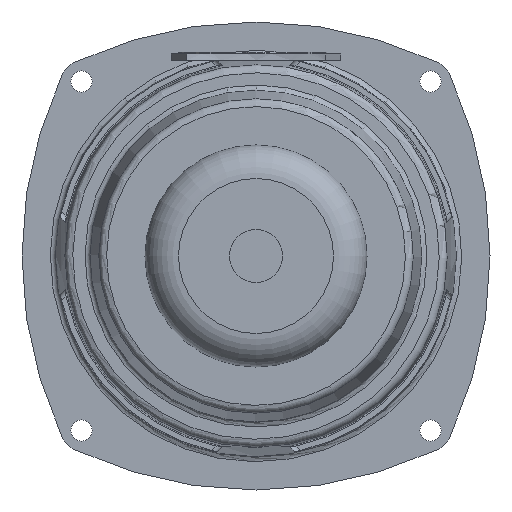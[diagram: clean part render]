
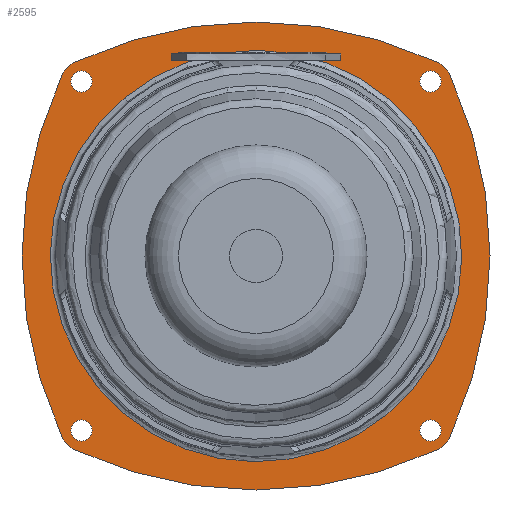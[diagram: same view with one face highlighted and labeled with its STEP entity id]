
A CAD part, front view. The second image highlights one B-rep face of the part: STEP entity #2595.
In plain terms, the highlighted planar face has unit normal (0, -1, 0) as drawn and (0, 0, 1) by its records, which use the part's own axes.
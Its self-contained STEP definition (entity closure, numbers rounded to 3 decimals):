
#153=FACE_BOUND('',#808,.T.);
#154=FACE_BOUND('',#809,.T.);
#155=FACE_BOUND('',#810,.T.);
#156=FACE_BOUND('',#811,.T.);
#157=FACE_BOUND('',#812,.T.);
#189=PLANE('',#2802);
#641=FACE_OUTER_BOUND('',#807,.T.);
#807=EDGE_LOOP('',(#1889,#1890,#1891,#1892,#1893,#1894,#1895,#1896));
#808=EDGE_LOOP('',(#1897));
#809=EDGE_LOOP('',(#1898));
#810=EDGE_LOOP('',(#1899));
#811=EDGE_LOOP('',(#1900));
#812=EDGE_LOOP('',(#1901));
#1013=CIRCLE('',#2803,5.);
#1014=CIRCLE('',#2804,81.);
#1015=CIRCLE('',#2805,5.);
#1016=CIRCLE('',#2806,81.);
#1017=CIRCLE('',#2807,5.);
#1018=CIRCLE('',#2808,81.);
#1019=CIRCLE('',#2809,5.);
#1020=CIRCLE('',#2810,81.);
#1021=CIRCLE('',#2811,38.9);
#1022=CIRCLE('',#2812,2.);
#1023=CIRCLE('',#2813,2.);
#1024=CIRCLE('',#2814,2.);
#1025=CIRCLE('',#2815,2.);
#1185=VERTEX_POINT('',#4437);
#1186=VERTEX_POINT('',#4438);
#1187=VERTEX_POINT('',#4440);
#1188=VERTEX_POINT('',#4442);
#1189=VERTEX_POINT('',#4444);
#1190=VERTEX_POINT('',#4446);
#1191=VERTEX_POINT('',#4448);
#1192=VERTEX_POINT('',#4450);
#1193=VERTEX_POINT('',#4453);
#1194=VERTEX_POINT('',#4455);
#1195=VERTEX_POINT('',#4457);
#1196=VERTEX_POINT('',#4459);
#1197=VERTEX_POINT('',#4461);
#1460=EDGE_CURVE('',#1185,#1186,#1013,.T.);
#1461=EDGE_CURVE('',#1187,#1186,#1014,.T.);
#1462=EDGE_CURVE('',#1187,#1188,#1015,.T.);
#1463=EDGE_CURVE('',#1189,#1188,#1016,.T.);
#1464=EDGE_CURVE('',#1189,#1190,#1017,.T.);
#1465=EDGE_CURVE('',#1191,#1190,#1018,.T.);
#1466=EDGE_CURVE('',#1191,#1192,#1019,.T.);
#1467=EDGE_CURVE('',#1185,#1192,#1020,.T.);
#1468=EDGE_CURVE('',#1193,#1193,#1021,.T.);
#1469=EDGE_CURVE('',#1194,#1194,#1022,.T.);
#1470=EDGE_CURVE('',#1195,#1195,#1023,.T.);
#1471=EDGE_CURVE('',#1196,#1196,#1024,.T.);
#1472=EDGE_CURVE('',#1197,#1197,#1025,.T.);
#1889=ORIENTED_EDGE('',*,*,#1460,.T.);
#1890=ORIENTED_EDGE('',*,*,#1461,.F.);
#1891=ORIENTED_EDGE('',*,*,#1462,.T.);
#1892=ORIENTED_EDGE('',*,*,#1463,.F.);
#1893=ORIENTED_EDGE('',*,*,#1464,.T.);
#1894=ORIENTED_EDGE('',*,*,#1465,.F.);
#1895=ORIENTED_EDGE('',*,*,#1466,.T.);
#1896=ORIENTED_EDGE('',*,*,#1467,.F.);
#1897=ORIENTED_EDGE('',*,*,#1468,.F.);
#1898=ORIENTED_EDGE('',*,*,#1469,.T.);
#1899=ORIENTED_EDGE('',*,*,#1470,.T.);
#1900=ORIENTED_EDGE('',*,*,#1471,.T.);
#1901=ORIENTED_EDGE('',*,*,#1472,.T.);
#2595=ADVANCED_FACE('',(#641,#153,#154,#155,#156,#157),#189,.F.);
#2802=AXIS2_PLACEMENT_3D('',#4436,#3142,#3143);
#2803=AXIS2_PLACEMENT_3D('',#4439,#3144,#3145);
#2804=AXIS2_PLACEMENT_3D('',#4441,#3146,#3147);
#2805=AXIS2_PLACEMENT_3D('',#4443,#3148,#3149);
#2806=AXIS2_PLACEMENT_3D('',#4445,#3150,#3151);
#2807=AXIS2_PLACEMENT_3D('',#4447,#3152,#3153);
#2808=AXIS2_PLACEMENT_3D('',#4449,#3154,#3155);
#2809=AXIS2_PLACEMENT_3D('',#4451,#3156,#3157);
#2810=AXIS2_PLACEMENT_3D('',#4452,#3158,#3159);
#2811=AXIS2_PLACEMENT_3D('',#4454,#3160,#3161);
#2812=AXIS2_PLACEMENT_3D('',#4456,#3162,#3163);
#2813=AXIS2_PLACEMENT_3D('',#4458,#3164,#3165);
#2814=AXIS2_PLACEMENT_3D('',#4460,#3166,#3167);
#2815=AXIS2_PLACEMENT_3D('',#4462,#3168,#3169);
#3142=DIRECTION('center_axis',(0.,0.,-1.));
#3143=DIRECTION('ref_axis',(1.,0.,0.));
#3144=DIRECTION('center_axis',(0.,0.,1.));
#3145=DIRECTION('ref_axis',(0.906,0.423,0.));
#3146=DIRECTION('center_axis',(0.,0.,-1.));
#3147=DIRECTION('ref_axis',(-0.423,0.906,0.));
#3148=DIRECTION('center_axis',(0.,0.,1.));
#3149=DIRECTION('ref_axis',(-0.423,0.906,0.));
#3150=DIRECTION('center_axis',(0.,0.,-1.));
#3151=DIRECTION('ref_axis',(-0.906,-0.423,0.));
#3152=DIRECTION('center_axis',(0.,0.,1.));
#3153=DIRECTION('ref_axis',(-0.906,-0.423,0.));
#3154=DIRECTION('center_axis',(0.,0.,-1.));
#3155=DIRECTION('ref_axis',(0.423,-0.906,0.));
#3156=DIRECTION('center_axis',(0.,0.,1.));
#3157=DIRECTION('ref_axis',(0.423,-0.906,0.));
#3158=DIRECTION('center_axis',(0.,0.,-1.));
#3159=DIRECTION('ref_axis',(0.906,0.423,0.));
#3160=DIRECTION('center_axis',(0.,0.,1.));
#3161=DIRECTION('ref_axis',(1.,0.,0.));
#3162=DIRECTION('center_axis',(0.,0.,-1.));
#3163=DIRECTION('ref_axis',(0.,-1.,0.));
#3164=DIRECTION('center_axis',(0.,0.,-1.));
#3165=DIRECTION('ref_axis',(0.,-1.,0.));
#3166=DIRECTION('center_axis',(0.,0.,-1.));
#3167=DIRECTION('ref_axis',(0.,-1.,0.));
#3168=DIRECTION('center_axis',(0.,0.,-1.));
#3169=DIRECTION('ref_axis',(0.,-1.,0.));
#4436=CARTESIAN_POINT('Origin',(0.,-37.,-4.));
#4437=CARTESIAN_POINT('',(36.657,-2.76,-4.));
#4438=CARTESIAN_POINT('',(34.24,-0.343,-4.));
#4439=CARTESIAN_POINT('Origin',(32.126,-4.874,-4.));
#4440=CARTESIAN_POINT('',(-34.24,-0.343,-4.));
#4441=CARTESIAN_POINT('Origin',(0.,-73.75,-4.));
#4442=CARTESIAN_POINT('',(-36.657,-2.76,-4.));
#4443=CARTESIAN_POINT('Origin',(-32.126,-4.874,-4.));
#4444=CARTESIAN_POINT('',(-36.657,-71.24,-4.));
#4445=CARTESIAN_POINT('Origin',(36.75,-37.,-4.));
#4446=CARTESIAN_POINT('',(-34.24,-73.657,-4.));
#4447=CARTESIAN_POINT('Origin',(-32.126,-69.126,-4.));
#4448=CARTESIAN_POINT('',(34.24,-73.657,-4.));
#4449=CARTESIAN_POINT('Origin',(0.,-0.25,-4.));
#4450=CARTESIAN_POINT('',(36.657,-71.24,-4.));
#4451=CARTESIAN_POINT('Origin',(32.126,-69.126,-4.));
#4452=CARTESIAN_POINT('Origin',(-36.75,-37.,-4.));
#4453=CARTESIAN_POINT('',(-38.899,-36.684,-4.));
#4454=CARTESIAN_POINT('Origin',(0.,-37.,-4.));
#4455=CARTESIAN_POINT('',(-33.,-68.,-4.));
#4456=CARTESIAN_POINT('Origin',(-33.,-70.,-4.));
#4457=CARTESIAN_POINT('',(-33.,-2.,-4.));
#4458=CARTESIAN_POINT('Origin',(-33.,-4.,-4.));
#4459=CARTESIAN_POINT('',(33.,-2.,-4.));
#4460=CARTESIAN_POINT('Origin',(33.,-4.,-4.));
#4461=CARTESIAN_POINT('',(33.,-68.,-4.));
#4462=CARTESIAN_POINT('Origin',(33.,-70.,-4.));
